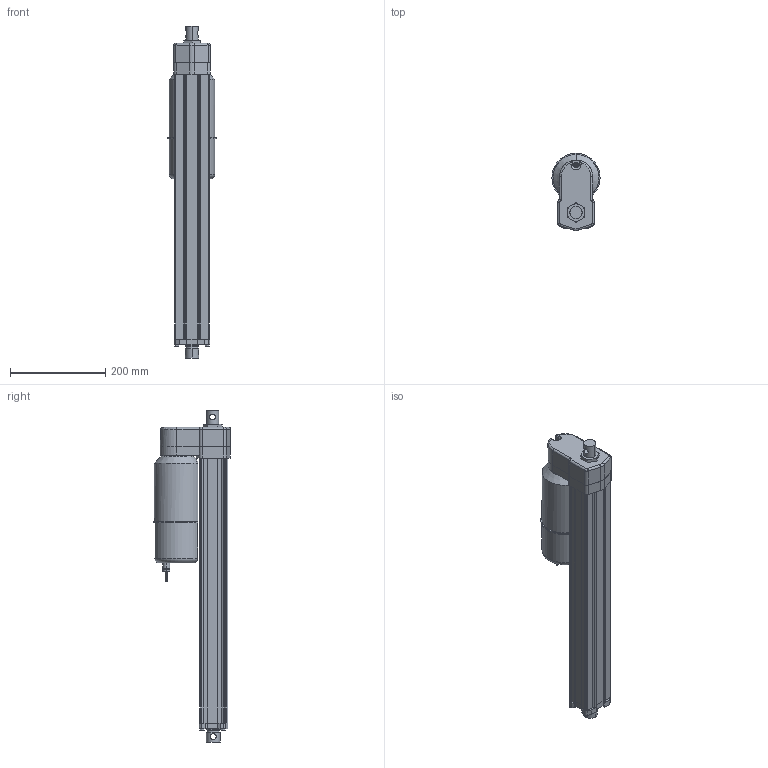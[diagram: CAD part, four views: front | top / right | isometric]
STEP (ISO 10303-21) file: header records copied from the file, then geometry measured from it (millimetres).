
FILE_DESCRIPTION (( 'STEP AP214' ), '1' );
FILE_NAME ('AA22-05B65M-40M0N-tollo.step', '2020-04-14T18:45:09', ( '' ), ( '' ), 'SwSTEP 2.0', 'SolidWorks 2010', '' );
FILE_SCHEMA (( 'AUTOMOTIVE_DESIGN' ));
Length unit declared in the file: millimetre
Products named in the file (8): Electrak-LA24-Motor-AA22-05B65M-40M0N-tollo_Electrak-LA24-Motor-AA22-05B65M-40M0N-tollo; Electrak-LA24-Rear-AA22-05B65M-40M0N-tollo_Electrak-LA24-Rear-AA22-05B65M-40M0N-tollo; Electrak-LA24-Tube-AA22-05B65M-40M0N-tollo_Electrak-LA24-Tube-AA22-05B65M-40M0N-tollo; Electrak-LA24-Rod-AA22-05B65M-40M0N-tollo_Electrak-LA24-Rod-AA22-05B65M-40M0N-tollo; Electrak-LA24-Plate-AA22-05B65M-40M0N-tollo_Electrak-LA24-Plate-AA22-05B65M-40M0N-tollo; Screw-MFX-H-M5_Screw-MFX-H-M5x24H; Screw-M6S-M5-AA22-05B65M-40M0N-tollo_Screw-M6S-M5-AA22-05B65M-40M0N-tollo; AA22-05B65M-40M0N-tollo
Assembly tree (10 placements, depth 2):
  AA22-05B65M-40M0N-tollo
    Screw-M6S-M5-AA22-05B65M-40M0N-tollo_Screw-M6S-M5-AA22-05B65M-40M0N-tollo  x4
    Electrak-LA24-Plate-AA22-05B65M-40M0N-tollo_Electrak-LA24-Plate-AA22-05B65M-40M0N-tollo
    Screw-MFX-H-M5_Screw-MFX-H-M5x24H
    Electrak-LA24-Rod-AA22-05B65M-40M0N-tollo_Electrak-LA24-Rod-AA22-05B65M-40M0N-tollo
    Electrak-LA24-Rear-AA22-05B65M-40M0N-tollo_Electrak-LA24-Rear-AA22-05B65M-40M0N-tollo
    Electrak-LA24-Motor-AA22-05B65M-40M0N-tollo_Electrak-LA24-Motor-AA22-05B65M-40M0N-tollo
    Electrak-LA24-Tube-AA22-05B65M-40M0N-tollo_Electrak-LA24-Tube-AA22-05B65M-40M0N-tollo
Bounding box: 100.99 x 162.5 x 695.7 mm (x, y, z)
Volume: 3037168.5 mm3; surface area: 507872.5 mm2
Topology: 10 solids, 10 shells, 429 faces, 1071 edges, 681 vertices
Faces by surface type: cylinder 176, plane 174, cone 58, torus 16, bspline 3, sphere 2
Entity records: 11539 total; most frequent: CARTESIAN_POINT 2722, DIRECTION 1809, ORIENTED_EDGE 1702, EDGE_CURVE 851, AXIS2_PLACEMENT_3D 661, VERTEX_POINT 546, VECTOR 487, LINE 487
